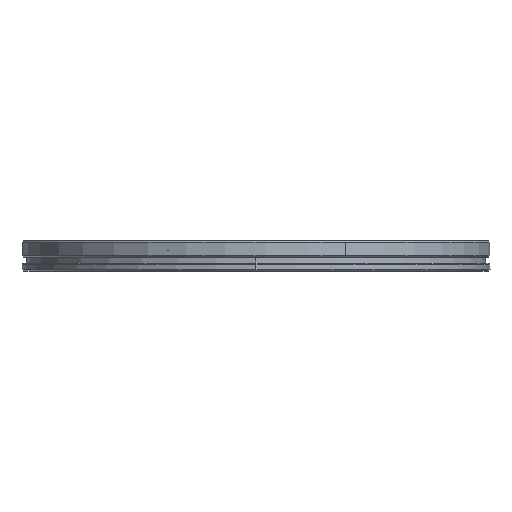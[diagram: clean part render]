
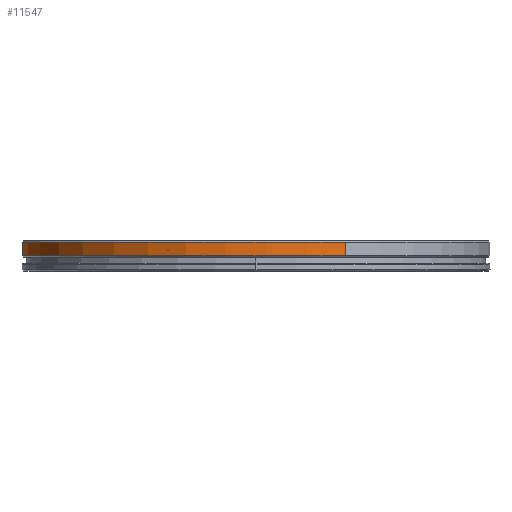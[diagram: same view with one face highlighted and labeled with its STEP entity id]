
A CAD part, left-side view. The second image highlights one B-rep face of the part: STEP entity #11547.
In plain terms, the highlighted cylindrical face has radius 84 mm (diameter 168 mm), a partial arc.
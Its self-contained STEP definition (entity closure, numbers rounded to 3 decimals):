
#39 = VERTEX_POINT ( 'NONE', #2476 ) ;
#281 = CIRCLE ( 'NONE', #1868, 84. ) ;
#451 = DIRECTION ( 'NONE',  ( -1., 0., 0. ) ) ;
#544 = EDGE_CURVE ( 'NONE', #6072, #39, #281, .T. ) ;
#584 = LINE ( 'NONE', #8194, #7015 ) ;
#640 = ORIENTED_EDGE ( 'NONE', *, *, #8620, .T. ) ;
#711 = AXIS2_PLACEMENT_3D ( 'NONE', #3351, #8977, #1298 ) ;
#1298 = DIRECTION ( 'NONE',  ( -1., 0., 0. ) ) ;
#1314 = DIRECTION ( 'NONE',  ( 0., 0., -1. ) ) ;
#1316 = CIRCLE ( 'NONE', #711, 84. ) ;
#1525 = CARTESIAN_POINT ( 'NONE',  ( 0., 0., 0.5 ) ) ;
#1562 = AXIS2_PLACEMENT_3D ( 'NONE', #7019, #1314, #451 ) ;
#1868 = AXIS2_PLACEMENT_3D ( 'NONE', #1525, #5307, #3224 ) ;
#2063 = VERTEX_POINT ( 'NONE', #9740 ) ;
#2424 = EDGE_CURVE ( 'NONE', #9499, #39, #584, .T. ) ;
#2476 = CARTESIAN_POINT ( 'NONE',  ( -84., 0., 0.5 ) ) ;
#3224 = DIRECTION ( 'NONE',  ( 1., 0., 0. ) ) ;
#3351 = CARTESIAN_POINT ( 'NONE',  ( 0., 0., 5.5 ) ) ;
#3411 = CARTESIAN_POINT ( 'NONE',  ( 84., 0., 0.5 ) ) ;
#3494 = DIRECTION ( 'NONE',  ( 0., 0., -1. ) ) ;
#4060 = CYLINDRICAL_SURFACE ( 'NONE', #1562, 84. ) ;
#4715 = CARTESIAN_POINT ( 'NONE',  ( 84., 0., 0. ) ) ;
#5129 = EDGE_LOOP ( 'NONE', ( #640, #10630, #11358, #5629 ) ) ;
#5307 = DIRECTION ( 'NONE',  ( 0., 0., 1. ) ) ;
#5324 = VECTOR ( 'NONE', #8364, 1000. ) ;
#5629 = ORIENTED_EDGE ( 'NONE', *, *, #2424, .F. ) ;
#6072 = VERTEX_POINT ( 'NONE', #3411 ) ;
#7015 = VECTOR ( 'NONE', #3494, 1000. ) ;
#7019 = CARTESIAN_POINT ( 'NONE',  ( 0., 0., 0. ) ) ;
#7569 = LINE ( 'NONE', #4715, #5324 ) ;
#7835 = FACE_OUTER_BOUND ( 'NONE', #5129, .T. ) ;
#8194 = CARTESIAN_POINT ( 'NONE',  ( -84., 0., 0. ) ) ;
#8364 = DIRECTION ( 'NONE',  ( 0., 0., -1. ) ) ;
#8620 = EDGE_CURVE ( 'NONE', #9499, #2063, #1316, .T. ) ;
#8977 = DIRECTION ( 'NONE',  ( 0., 0., -1. ) ) ;
#9176 = CARTESIAN_POINT ( 'NONE',  ( -84., 0., 5.5 ) ) ;
#9499 = VERTEX_POINT ( 'NONE', #9176 ) ;
#9740 = CARTESIAN_POINT ( 'NONE',  ( 84., 0., 5.5 ) ) ;
#10630 = ORIENTED_EDGE ( 'NONE', *, *, #11578, .T. ) ;
#11358 = ORIENTED_EDGE ( 'NONE', *, *, #544, .T. ) ;
#11547 = ADVANCED_FACE ( 'NONE', ( #7835 ), #4060, .T. ) ;
#11578 = EDGE_CURVE ( 'NONE', #2063, #6072, #7569, .T. ) ;
